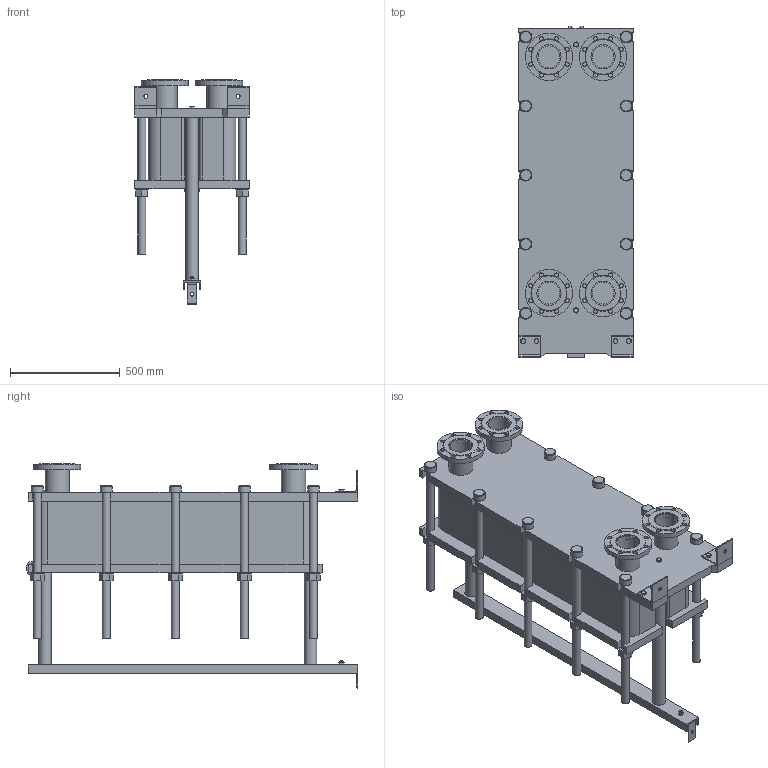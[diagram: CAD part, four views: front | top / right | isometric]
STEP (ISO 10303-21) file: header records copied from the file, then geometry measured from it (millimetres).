
FILE_DESCRIPTION(/* description */ (''),/* implementation_level */ '2;1');
FILE_NAME(/* name */ 'C:\Users\zhuro\Desktop\ENCO\TO\ЭН-04\ЭН-0,5-04-83-1.stp',/* time_stamp */ '2022-06-06T10:52:06+03:00',/* author */ ('zhuro'),/* organization */ (''),/* preprocessor_version */ 'ST-DEVELOPER v18.1',/* originating_system */ 'Autodesk Inventor 2022',/* authorisation */ '');
FILE_SCHEMA (('AUTOMOTIVE_DESIGN { 1 0 10303 214 3 1 1 }'));
Length unit declared in the file: millimetre
Products named in the file (1): ЭН-0,5-04-83-1
Bounding box: 520 x 1510 x 1021.5 mm (x, y, z)
Volume: 213395861.8 mm3; surface area: 7981430.3 mm2
Topology: 45 solids, 45 shells, 668 faces, 1611 edges, 1048 vertices
Faces by surface type: plane 457, cylinder 166, cone 39, torus 6
Full cylindrical faces by diameter (mm): 8 x4, 10 x2, 16 x8, 18 x35, 36 x25, 40 x2, 42 x1, 45 x4, 54 x10, 57 x2, 60 x10, 68 x2, 100 x4, 110 x8, 215 x4
Entity records: 23607 total; most frequent: CARTESIAN_POINT 7348, DIRECTION 3371, ORIENTED_EDGE 3142, EDGE_CURVE 1571, AXIS2_PLACEMENT_3D 1199, VERTEX_POINT 1044, LINE 973, VECTOR 973
